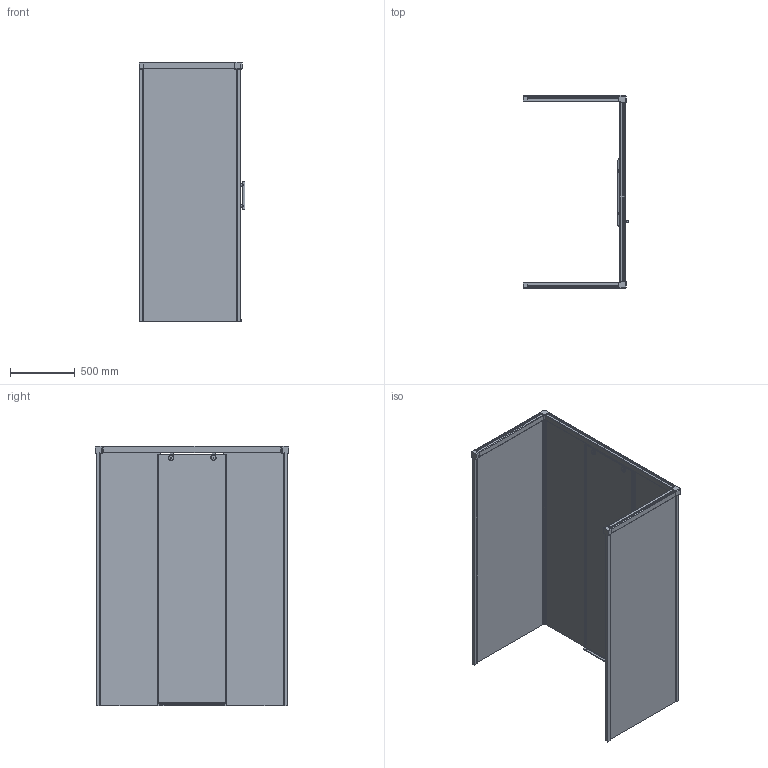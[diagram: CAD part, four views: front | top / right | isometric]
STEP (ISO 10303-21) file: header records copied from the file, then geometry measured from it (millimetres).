
FILE_DESCRIPTION(/* description */ (''),/* implementation_level */ '2;1');
FILE_NAME(/* name */ 'E:\Работа\Сергей\Душевые кабинки\! Работа\!!! Slide\SLIDE RECTAN GK-865U\SLIDE RECTAN GK-865U правая модель\SLIDE RECTAN GK-865U ПРАВАЯ-3D.stp',/* time_stamp */ '2018-03-26T19:48:18+03:00',/* author */ ('PC'),/* organization */ (''),/* preprocessor_version */ 'ST-DEVELOPER v15.2',/* originating_system */ 'Autodesk Inventor 2014',/* authorisation */ '');
FILE_SCHEMA (('AUTOMOTIVE_DESIGN { 1 0 10303 214 3 1 1 }'));
Length unit declared in the file: millimetre
Products named in the file (1): SLIDE RECTAN GK-865U ПРАВАЯ-
3D
Bounding box: 816.4 x 1490 x 2001.5 mm (x, y, z)
Volume: 55898732.4 mm3; surface area: 13056285.3 mm2
Topology: 2 solids, 6 shells, 812 faces, 2303 edges, 1505 vertices
Faces by surface type: plane 500, cylinder 254, torus 32, bspline 22, cone 4
Full cylindrical faces by diameter (mm): 20 x3, 37 x4, 42 x4
Entity records: 27674 total; most frequent: CARTESIAN_POINT 5623, ORIENTED_EDGE 4552, DIRECTION 4299, EDGE_CURVE 2274, LINE 1611, VECTOR 1611, VERTEX_POINT 1497, AXIS2_PLACEMENT_3D 1344
